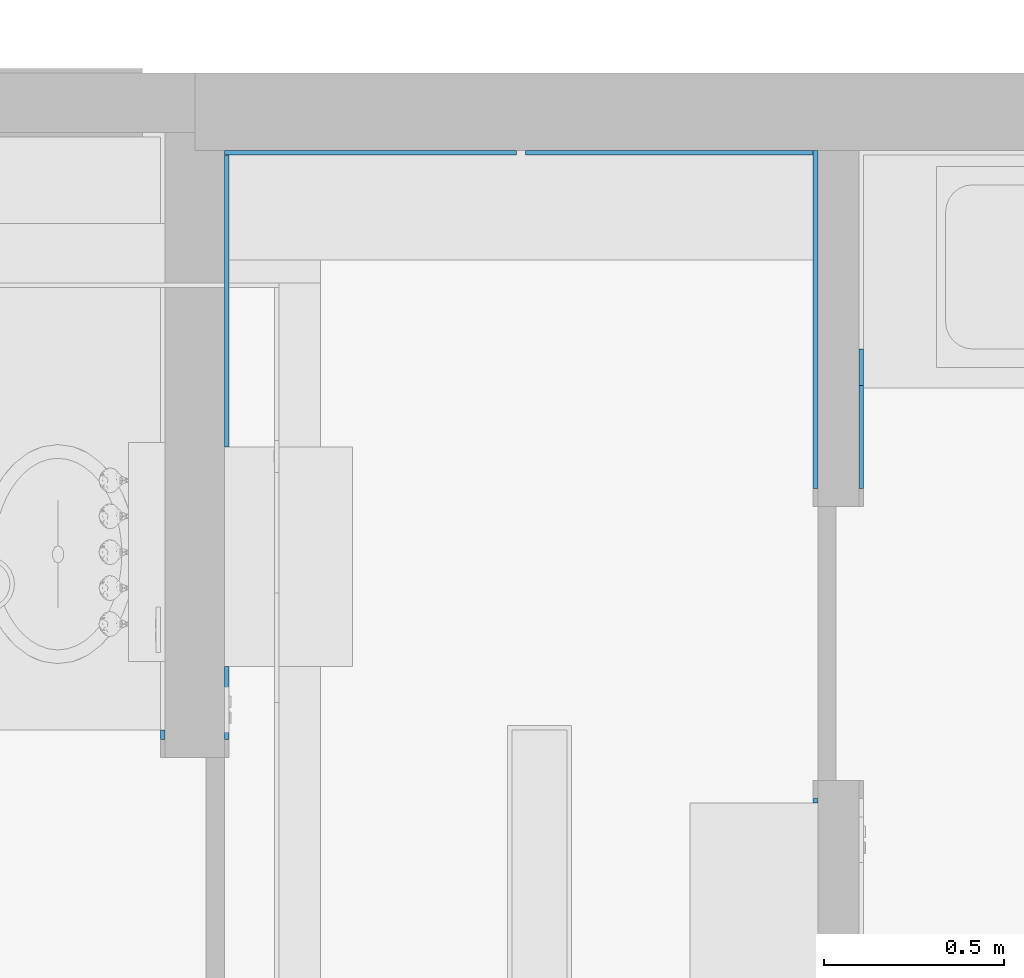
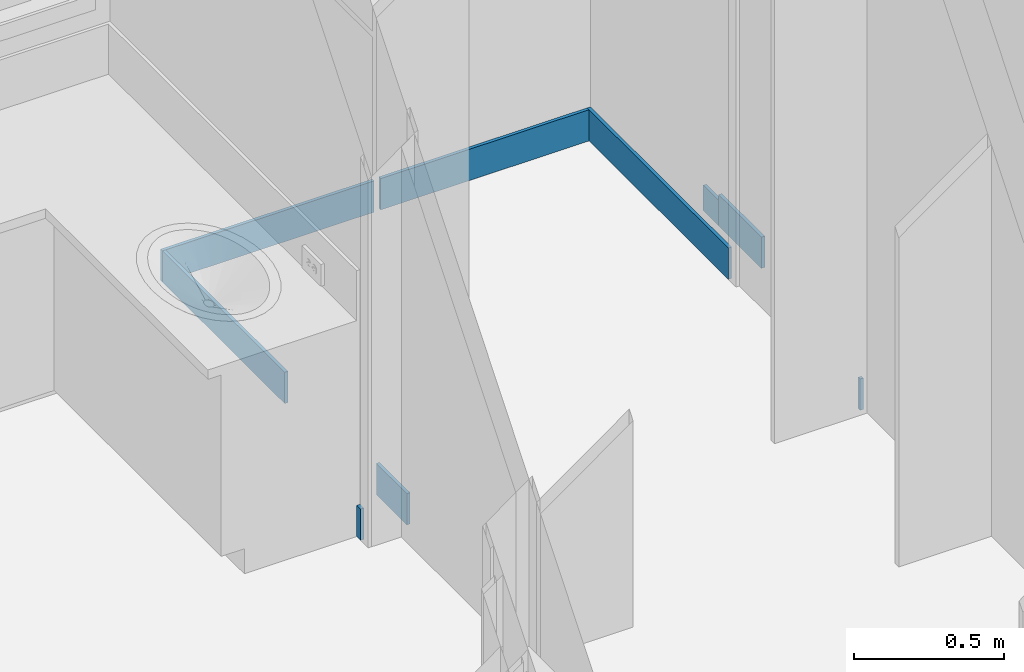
# One storey, part 28 of 81: 9 walls.
"""IFC2X3 building model written with IfcOpenShell, lengths in feet."""

from ifc_helpers import new_model, entity, si_unit, converted_unit, derived_unit, direction, frame, frame_2d, origin, place, context, subcontext, project, spatial, rectangle, extrude, material, layer, layer_set, layer_usage, type_object, element, save


model = new_model("IFC2X3")

# Units and contexts
model_context = context("Model", 3, precision=0.0001, world=origin(), true_north=direction((6.12303176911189e-17, 1.0)))
body_context = subcontext(model_context, "Body", "Model", "MODEL_VIEW")
ifc_project = project(units=[converted_unit("LENGTHUNIT", "FOOT", entity("IfcRatioMeasure", 0.3048), si_unit("LENGTHUNIT", "METRE"), dimensions=[1, 0, 0, 0, 0, 0, 0]), converted_unit("AREAUNIT", "SQUARE FOOT", entity("IfcRatioMeasure", 0.09290304), si_unit("AREAUNIT", "SQUARE_METRE"), dimensions=[2, 0, 0, 0, 0, 0, 0]), converted_unit("VOLUMEUNIT", "CUBIC FOOT", entity("IfcRatioMeasure", 0.028316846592), si_unit("VOLUMEUNIT", "CUBIC_METRE"), dimensions=[3, 0, 0, 0, 0, 0, 0]), converted_unit("PLANEANGLEUNIT", "DEGREE", entity("IfcRatioMeasure", 0.0174532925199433), si_unit("PLANEANGLEUNIT", "RADIAN"), dimensions=[0, 0, 0, 0, 0, 0, 0]), si_unit("MASSUNIT", "GRAM", prefix="KILO"), derived_unit("MASSDENSITYUNIT", [(si_unit("MASSUNIT", "GRAM", prefix="KILO"), 1), (si_unit("LENGTHUNIT", "METRE"), -3)]), derived_unit("MOMENTOFINERTIAUNIT", [(si_unit("LENGTHUNIT", "METRE"), 4)]), si_unit("TIMEUNIT", "SECOND"), si_unit("FREQUENCYUNIT", "HERTZ"), si_unit("THERMODYNAMICTEMPERATUREUNIT", "DEGREE_CELSIUS"), derived_unit("THERMALTRANSMITTANCEUNIT", [(si_unit("MASSUNIT", "GRAM", prefix="KILO"), 1), (si_unit("THERMODYNAMICTEMPERATUREUNIT", "KELVIN"), -1), (si_unit("TIMEUNIT", "SECOND"), -3)]), derived_unit("VOLUMETRICFLOWRATEUNIT", [(si_unit("LENGTHUNIT", "METRE"), 3), (si_unit("TIMEUNIT", "SECOND"), -1)]), si_unit("ELECTRICCURRENTUNIT", "AMPERE"), si_unit("ELECTRICVOLTAGEUNIT", "VOLT"), si_unit("POWERUNIT", "WATT"), si_unit("FORCEUNIT", "NEWTON"), si_unit("ILLUMINANCEUNIT", "LUX"), si_unit("LUMINOUSFLUXUNIT", "LUMEN"), si_unit("LUMINOUSINTENSITYUNIT", "CANDELA"), derived_unit("USERDEFINED", [(si_unit("MASSUNIT", "GRAM", prefix="KILO"), -1), (si_unit("LENGTHUNIT", "METRE"), -2), (si_unit("TIMEUNIT", "SECOND"), 3), (si_unit("LUMINOUSFLUXUNIT", "LUMEN"), 1)]), derived_unit("LINEARVELOCITYUNIT", [(si_unit("LENGTHUNIT", "METRE"), 1), (si_unit("TIMEUNIT", "SECOND"), -1)]), si_unit("PRESSUREUNIT", "PASCAL"), derived_unit("USERDEFINED", [(si_unit("LENGTHUNIT", "METRE"), -2), (si_unit("MASSUNIT", "GRAM", prefix="KILO"), 1), (si_unit("TIMEUNIT", "SECOND"), -2)]), derived_unit("LINEARFORCEUNIT", [(si_unit("MASSUNIT", "GRAM", prefix="KILO"), 1), (si_unit("LENGTHUNIT", "METRE"), 1), (si_unit("TIMEUNIT", "SECOND"), -2), (si_unit("LENGTHUNIT", "METRE"), -1)]), derived_unit("PLANARFORCEUNIT", [(si_unit("MASSUNIT", "GRAM", prefix="KILO"), 1), (si_unit("LENGTHUNIT", "METRE"), 1), (si_unit("TIMEUNIT", "SECOND"), -2), (si_unit("LENGTHUNIT", "METRE"), -2)])], contexts=[model_context])

# Site, building, storey
site_placement = place(None, origin())
site = spatial("IfcSite", under=ifc_project, at=site_placement, Name="Default", CompositionType="ELEMENT")
building_placement = place(site_placement, origin())
building = spatial("IfcBuilding", under=site, at=building_placement, CompositionType="ELEMENT")
storey_placement = place(building_placement, origin())
storey = spatial("IfcBuildingStorey", under=building, at=storey_placement, Name="First floor", CompositionType="ELEMENT", Elevation=0.0)

# Walls
ifc_material = material(Name="Default New Material")
ifc_layer = layer(ifc_material, 0.0416666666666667)
ifc_layer_set = layer_set([ifc_layer], Name="Basic Wall:Wall Border_T1")
ifc_layer_usage_1 = layer_usage(ifc_layer_set, "AXIS2", "NEGATIVE", 0.0208333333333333)
wall_type = type_object("IfcWallType", Name="Basic Wall:Wall Border_T1", PredefinedType="STANDARD", material=ifc_layer_set)
wall_1_placement = place(storey_placement, frame((7.39583333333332, 41.9579881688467, 10.6666666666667), z_axis=(0.0, 0.0, 1.0), x_axis=(0.0, 1.0, 0.0)))
element("IfcWallStandardCase", 1, at=wall_1_placement, inside=storey, type_object=wall_type, material=ifc_layer_usage_1, Name="Basic Wall:Wall Border_T1", ObjectType="Basic Wall:Wall Border_T1", context=body_context, shape_type="SweptSolid", body=[
    extrude(rectangle(XDim=0.0833333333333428, YDim=0.0416666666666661, at=frame_2d((0.0416666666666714, 0.0), x_axis=(-1.0, 0.0))), origin(), (0.0, 0.0, 1.0), 0.416666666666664),
])
ifc_layer_usage_2 = layer_usage(ifc_layer_set, "AXIS2", "NEGATIVE", 0.0208333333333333)
wall_2_placement = place(storey_placement, frame((13.3541666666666, 44.2496548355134, 10.6666666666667), z_axis=(0.0, 0.0, 1.0), x_axis=(0.0, 1.0, 0.0)))
element("IfcWallStandardCase", 2, at=wall_2_placement, inside=storey, type_object=wall_type, material=ifc_layer_usage_2, Name="Basic Wall:Wall Border_T1", ObjectType="Basic Wall:Wall Border_T1", context=body_context, shape_type="SweptSolid", body=[
    extrude(rectangle(XDim=3.08333333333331, YDim=0.0416666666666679, at=frame_2d((1.54166666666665, 1.73472347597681e-17), x_axis=(-1.0, 0.0))), origin(), (0.0, 0.0, 1.0), 0.416666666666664),
])
ifc_layer_usage_3 = layer_usage(ifc_layer_set, "AXIS2", "NEGATIVE", 0.0208333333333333)
wall_3_placement = place(storey_placement, frame((13.3333333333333, 47.3121548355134, 10.6666666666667), z_axis=(0.0, 0.0, 1.0), x_axis=(-1.0, 0.0, 0.0)))
element("IfcWallStandardCase", 3, at=wall_3_placement, inside=storey, type_object=wall_type, material=ifc_layer_usage_3, Name="Basic Wall:Wall Border_T1", ObjectType="Basic Wall:Wall Border_T1", context=body_context, shape_type="SweptSolid", body=[
    extrude(rectangle(XDim=2.625, YDim=0.0416666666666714, at=frame_2d((1.3125, 0.0), x_axis=(-1.0, 0.0))), origin(), (0.0, 0.0, 1.0), 0.416666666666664),
])
ifc_layer_usage_4 = layer_usage(ifc_layer_set, "AXIS2", "NEGATIVE", 0.0208333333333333)
wall_4_placement = place(storey_placement, frame((7.97916666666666, 47.2913215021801, 10.6666666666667), z_axis=(0.0, 0.0, 1.0), x_axis=(0.0, -1.0, 0.0)))
element("IfcWallStandardCase", 4, at=wall_4_placement, inside=storey, type_object=wall_type, material=ifc_layer_usage_4, Name="Basic Wall:Wall Border_T1", ObjectType="Basic Wall:Wall Border_T1", context=body_context, shape_type="SweptSolid", body=[
    extrude(rectangle(XDim=2.66666666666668, YDim=0.0416666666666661, at=frame_2d((1.33333333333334, 0.0), x_axis=(-1.0, 0.0))), origin(), (0.0, 0.0, 1.0), 0.416666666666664),
])
ifc_layer_usage_5 = layer_usage(ifc_layer_set, "AXIS2", "NEGATIVE", 0.0208333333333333)
wall_5_placement = place(storey_placement, frame((7.97916666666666, 41.9579881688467, 10.6666666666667), z_axis=(0.0, 0.0, 1.0), x_axis=(0.0, 1.0, 0.0)))
element("IfcWallStandardCase", 5, at=wall_5_placement, inside=storey, type_object=wall_type, material=ifc_layer_usage_5, Name="Basic Wall:Wall Border_T1", ObjectType="Basic Wall:Wall Border_T1", context=body_context, shape_type="SweptSolid", body=[
    extrude(rectangle(XDim=0.666666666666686, YDim=0.0416666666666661, at=frame_2d((0.333333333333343, 0.0), x_axis=(-1.0, 0.0))), origin(), (0.0, 0.0, 1.0), 0.416666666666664),
])
ifc_layer_usage_6 = layer_usage(ifc_layer_set, "AXIS2", "POSITIVE", -0.0208333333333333)
wall_6_placement = place(storey_placement, frame((13.7708333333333, 44.2496548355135, 10.6666666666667), z_axis=(0.0, 0.0, 1.0), x_axis=(0.0, 1.0, 0.0)))
element("IfcWallStandardCase", 6, at=wall_6_placement, inside=storey, type_object=wall_type, material=ifc_layer_usage_6, Name="Basic Wall:Wall Border_T1", ObjectType="Basic Wall:Wall Border_T1", context=body_context, shape_type="SweptSolid", body=[
    extrude(rectangle(XDim=0.937499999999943, YDim=0.0416666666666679, at=frame_2d((0.468749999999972, 0.0), x_axis=(-1.0, 0.0))), origin(), (0.0, 0.0, 1.0), 0.416666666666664),
])
ifc_layer_usage_7 = layer_usage(ifc_layer_set, "AXIS2", "POSITIVE", -0.0208333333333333)
wall_7_placement = place(storey_placement, frame((13.7708333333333, 45.1871548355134, 10.6666666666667), z_axis=(0.0, 0.0, 1.0), x_axis=(0.0, 1.0, 0.0)))
element("IfcWallStandardCase", 7, at=wall_7_placement, inside=storey, type_object=wall_type, material=ifc_layer_usage_7, Name="Basic Wall:Wall Border_T1", ObjectType="Basic Wall:Wall Border_T1", context=body_context, shape_type="SweptSolid", body=[
    extrude(rectangle(XDim=0.333333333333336, YDim=0.0416666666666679, at=frame_2d((0.166666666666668, 0.0), x_axis=(-1.0, 0.0))), origin(), (0.0, 0.0, 1.0), 0.338541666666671),
])
ifc_layer_usage_8 = layer_usage(ifc_layer_set, "AXIS2", "NEGATIVE", 0.0208333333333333)
wall_8_placement = place(storey_placement, frame((10.625, 47.3121548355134, 10.6666666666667), z_axis=(0.0, 0.0, 1.0), x_axis=(-1.0, 0.0, 0.0)))
element("IfcWallStandardCase", 8, at=wall_8_placement, inside=storey, type_object=wall_type, material=ifc_layer_usage_8, Name="Basic Wall:Wall Border_T1", ObjectType="Basic Wall:Wall Border_T1", context=body_context, shape_type="SweptSolid", body=[
    extrude(rectangle(XDim=2.66666666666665, YDim=0.0416666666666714, at=frame_2d((1.33333333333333, 0.0), x_axis=(-1.0, 0.0))), origin(), (0.0, 0.0, 1.0), 0.416666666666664),
])
ifc_layer_usage_9 = layer_usage(ifc_layer_set, "AXIS2", "NEGATIVE", 0.0208333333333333)
wall_9_placement = place(storey_placement, frame((13.3541666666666, 41.4163215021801, 10.6666666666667), z_axis=(0.0, 0.0, 1.0), x_axis=(0.0, -1.0, 0.0)))
element("IfcWallStandardCase", 9, at=wall_9_placement, inside=storey, type_object=wall_type, material=ifc_layer_usage_9, Name="Basic Wall:Wall Border_T1", ObjectType="Basic Wall:Wall Border_T1", context=body_context, shape_type="SweptSolid", body=[
    extrude(rectangle(XDim=0.0416666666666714, YDim=0.0416666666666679, at=frame_2d((0.0208333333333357, 0.0), x_axis=(-1.0, 0.0))), origin(), (0.0, 0.0, 1.0), 0.416666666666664),
])

save(model, "model.ifc")
